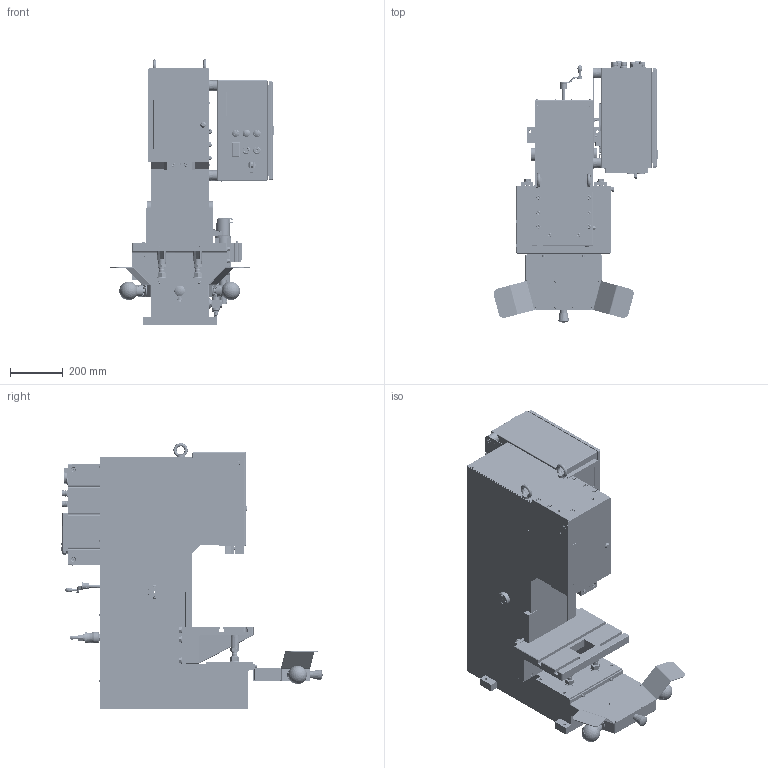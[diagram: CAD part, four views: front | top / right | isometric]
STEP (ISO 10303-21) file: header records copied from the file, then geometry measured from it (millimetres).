
FILE_DESCRIPTION(/* description */ (''),/* implementation_level */ '2;1');
FILE_NAME(/* name */ 'P:\CAD-Daten-für-Kunden\07_Pressen KHP\01_KHP Standard\mit SpiceFlex\Presse_KHP_100kN_G800_Hub40+V_ANR31994+SpiceFlex.stp',/* time_stamp */ '2021-03-08T11:51:44+01:00',/* author */ ('tse'),/* organization */ (''),/* preprocessor_version */ 'ST-DEVELOPER v18',/* originating_system */ 'Autodesk Inventor 2020',/* authorisation */ '');
FILE_SCHEMA (('AUTOMOTIVE_DESIGN { 1 0 10303 214 3 1 1 }'));
Products named in the file (7): Presse_KHP_100kN_G800_Hub40+V_ANR31994+SpiceFlex; Ständereinheit_KHP_100kN_G800_V; Tischeinheit_KHP_50-70-100kN_HPC_110kN_ANR18613; Schlittendummy_KHP_50-70-100kN_HPC_110kN_ANR18607; SpiceFlex_Steuerkasten_ANR_29954; Zweihand_Tasterkasten_mit_Safeballs_und_Not-Aus_ANR_30032; Pneumatik_KHP_1_2kN
Assembly tree (6 placements, depth 2):
  Presse_KHP_100kN_G800_Hub40+V_ANR31994+SpiceFlex
    Ständereinheit_KHP_100kN_G800_V
    Tischeinheit_KHP_50-70-100kN_HPC_110kN_ANR18613
    Schlittendummy_KHP_50-70-100kN_HPC_110kN_ANR18607
    SpiceFlex_Steuerkasten_ANR_29954
    Zweihand_Tasterkasten_mit_Safeballs_und_Not-Aus_ANR_30032
    Pneumatik_KHP_1_2kN
Bounding box: 623.47 x 988.01 x 1005 mm (x, y, z)
Volume: 96346233.5 mm3; surface area: 5654755.3 mm2
Topology: 54 solids, 125 shells, 20434 faces, 55833 edges, 37115 vertices
Faces by surface type: plane 11670, bspline 4269, cylinder 3106, cone 1000, torus 252, sphere 137
Full cylindrical faces by diameter (mm): 0.4 x1, 0.474 x2, 0.98 x3, 1.1 x80, 1.5 x1, 1.6 x4, 1.9 x4, 2 x17, 2.013 x1, 2.1 x8, 2.4 x4, 2.459 x32, 2.5 x9, 2.6 x30, 2.75 x4, 3 x18, 3.141 x8, 3.2 x32, 3.242 x25, 3.4 x4, 3.5 x2, 3.7 x16, 3.8 x2, 4 x42, 4.1 x24, 4.134 x4, 4.2 x6, 4.3 x2, 4.4 x4, 4.5 x22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
Entity records: 715338 total; most frequent: CARTESIAN_POINT 198369, ORIENTED_EDGE 111336, DIRECTION 88223, EDGE_CURVE 55668, VERTEX_POINT 37115, LINE 34559, VECTOR 34559, AXIS2_PLACEMENT_3D 26832
